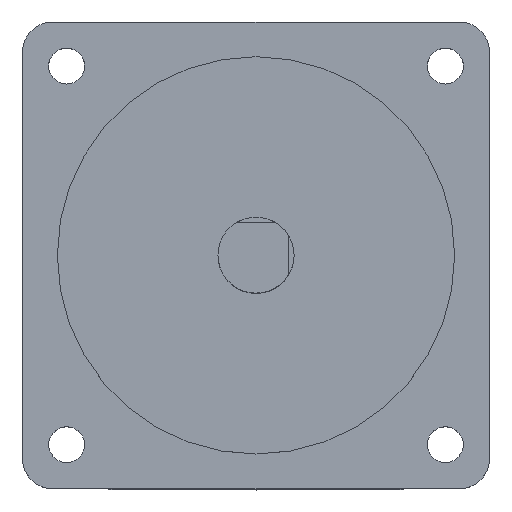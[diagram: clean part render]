
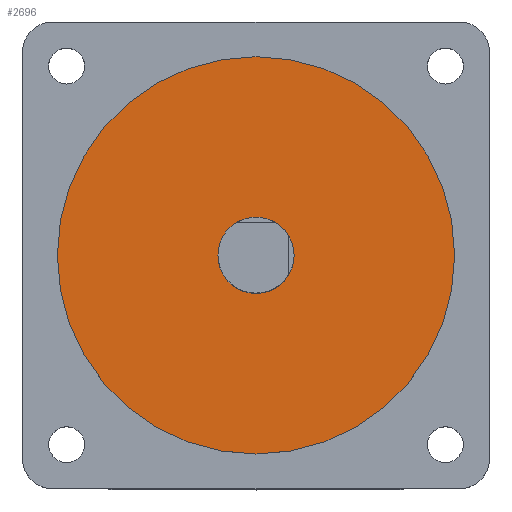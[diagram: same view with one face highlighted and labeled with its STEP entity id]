
A CAD part, top view. The second image highlights one B-rep face of the part: STEP entity #2696.
In plain terms, the highlighted planar face has unit normal (0, 0, 1).
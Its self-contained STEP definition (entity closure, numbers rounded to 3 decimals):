
#171 = CARTESIAN_POINT ( 'NONE',  ( 0., 0., 2. ) ) ;
#211 = CIRCLE ( 'NONE', #474, 36.513 ) ;
#289 = CARTESIAN_POINT ( 'NONE',  ( 36.513, 0., 2. ) ) ;
#314 = ORIENTED_EDGE ( 'NONE', *, *, #1542, .T. ) ;
#413 = AXIS2_PLACEMENT_3D ( 'NONE', #3364, #1575, #3663 ) ;
#462 = CARTESIAN_POINT ( 'NONE',  ( -7., 0., 2. ) ) ;
#473 = DIRECTION ( 'NONE',  ( 1., 0., 0. ) ) ;
#474 = AXIS2_PLACEMENT_3D ( 'NONE', #2644, #2481, #2170 ) ;
#618 = EDGE_CURVE ( 'NONE', #1131, #3751, #211, .T. ) ;
#626 = ORIENTED_EDGE ( 'NONE', *, *, #832, .T. ) ;
#636 = CARTESIAN_POINT ( 'NONE',  ( 0., 0., 2. ) ) ;
#668 = FACE_BOUND ( 'NONE', #3167, .T. ) ;
#832 = EDGE_CURVE ( 'NONE', #3235, #2574, #2619, .T. ) ;
#946 = DIRECTION ( 'NONE',  ( 1., 0., 0. ) ) ;
#1131 = VERTEX_POINT ( 'NONE', #289 ) ;
#1542 = EDGE_CURVE ( 'NONE', #2574, #3235, #1728, .T. ) ;
#1575 = DIRECTION ( 'NONE',  ( 0., 0., 1. ) ) ;
#1723 = EDGE_CURVE ( 'NONE', #3751, #1131, #2674, .T. ) ;
#1728 = CIRCLE ( 'NONE', #2128, 7. ) ;
#1836 = CARTESIAN_POINT ( 'NONE',  ( 7., 0., 2. ) ) ;
#1853 = AXIS2_PLACEMENT_3D ( 'NONE', #636, #2764, #946 ) ;
#2128 = AXIS2_PLACEMENT_3D ( 'NONE', #171, #2314, #473 ) ;
#2170 = DIRECTION ( 'NONE',  ( 1., 0., 0. ) ) ;
#2314 = DIRECTION ( 'NONE',  ( 0., 0., -1. ) ) ;
#2443 = PLANE ( 'NONE',  #1853 ) ;
#2481 = DIRECTION ( 'NONE',  ( 0., 0., 1. ) ) ;
#2574 = VERTEX_POINT ( 'NONE', #462 ) ;
#2619 = CIRCLE ( 'NONE', #3134, 7. ) ;
#2644 = CARTESIAN_POINT ( 'NONE',  ( 0., 0., 2. ) ) ;
#2674 = CIRCLE ( 'NONE', #413, 36.513 ) ;
#2696 = ADVANCED_FACE ( 'NONE', ( #2978, #668 ), #2443, .T. ) ;
#2721 = CARTESIAN_POINT ( 'NONE',  ( -36.513, 0., 2. ) ) ;
#2764 = DIRECTION ( 'NONE',  ( 0., 0., 1. ) ) ;
#2917 = DIRECTION ( 'NONE',  ( 1., 0., 0. ) ) ;
#2978 = FACE_OUTER_BOUND ( 'NONE', #3550, .T. ) ;
#3062 = ORIENTED_EDGE ( 'NONE', *, *, #618, .T. ) ;
#3134 = AXIS2_PLACEMENT_3D ( 'NONE', #3513, #3212, #2917 ) ;
#3167 = EDGE_LOOP ( 'NONE', ( #314, #626 ) ) ;
#3212 = DIRECTION ( 'NONE',  ( 0., 0., -1. ) ) ;
#3235 = VERTEX_POINT ( 'NONE', #1836 ) ;
#3364 = CARTESIAN_POINT ( 'NONE',  ( 0., 0., 2. ) ) ;
#3513 = CARTESIAN_POINT ( 'NONE',  ( 0., 0., 2. ) ) ;
#3550 = EDGE_LOOP ( 'NONE', ( #3796, #3062 ) ) ;
#3663 = DIRECTION ( 'NONE',  ( 1., 0., 0. ) ) ;
#3751 = VERTEX_POINT ( 'NONE', #2721 ) ;
#3796 = ORIENTED_EDGE ( 'NONE', *, *, #1723, .T. ) ;
